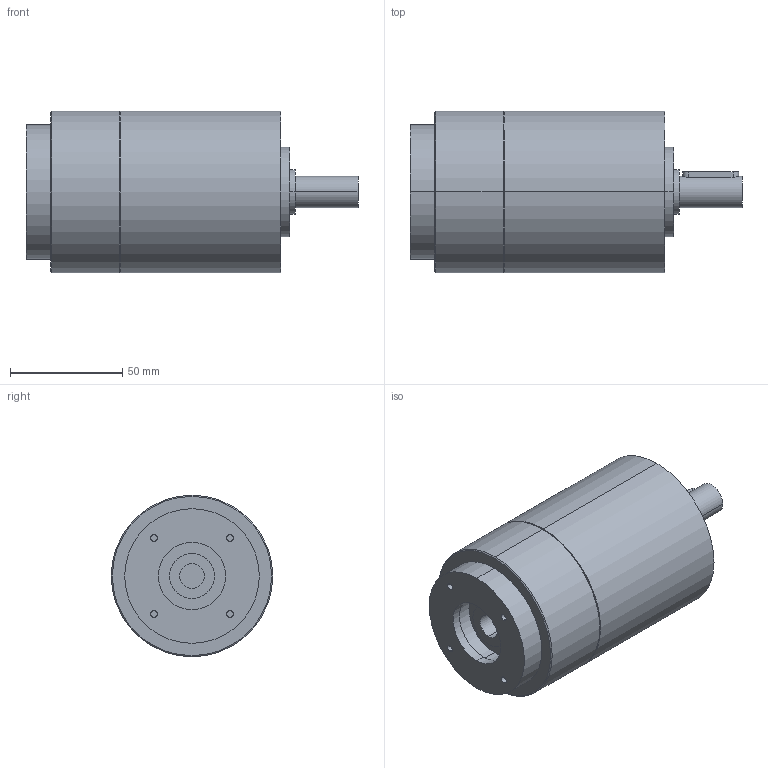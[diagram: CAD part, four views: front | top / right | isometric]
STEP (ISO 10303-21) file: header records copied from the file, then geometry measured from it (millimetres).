
FILE_DESCRIPTION(('CoCreate Modeling STEP Export'),'2;1');
FILE_NAME('GPT75_ig-9-12-16-20-25-28-35-40-50-70-100_14_B14T_11_P29.stp','2014-08-27T13:08:47',(''),(''),'CoCreate Modeling STEP processor for AP214 (Solid Model)','CoCreate Modeling 16.00C 25-Feb-2009 (C) Parametric Technology GmbH','');
FILE_SCHEMA(('AUTOMOTIVE_DESIGN { 1 0 10303 214 1 1 1 1 }'));
Length unit declared in the file: millimetre
Products named in the file (2): GPT75_ig-9-12-16-20-25-28-35-40-50-70-100_14_B14T_11_P29
Assembly tree (1 placements, depth 2):
  GPT75_ig-9-12-16-20-25-28-35-40-50-70-100_14_B14T_11_P29
    GPT75_ig-9-12-16-20-25-28-35-40-50-70-100_14_B14T_11_P29
Bounding box: 148 x 72 x 72 mm (x, y, z)
Volume: 447022.8 mm3; surface area: 39347.8 mm2
Topology: 1 solids, 1 shells, 67 faces, 149 edges, 102 vertices
Faces by surface type: cylinder 40, plane 23, cone 4
Entity records: 1948 total; most frequent: CARTESIAN_POINT 625, ORIENTED_EDGE 298, DIRECTION 220, EDGE_CURVE 149, VERTEX_POINT 102, AXIS2_PLACEMENT_3D 85, EDGE_LOOP 85, FACE_OUTER_BOUND 67
